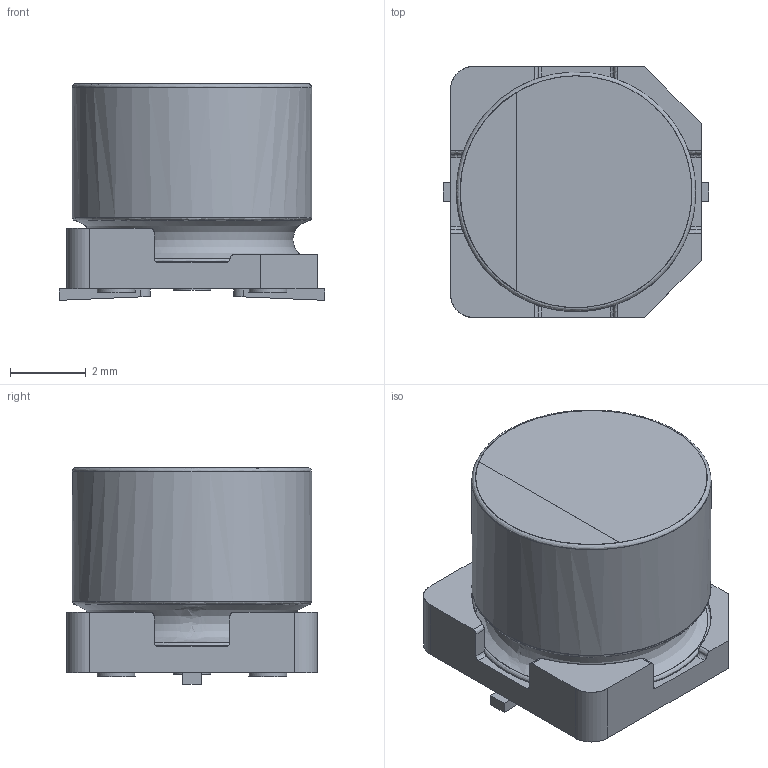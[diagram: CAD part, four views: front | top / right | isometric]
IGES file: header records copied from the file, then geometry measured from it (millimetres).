
Start section: JAMA-IS VERSION  1.0
Bounding box: 7 x 6.6 x 5.7 mm (x, y, z)
Surface area: 297.3 mm2 (no closed solid volume)
Topology: 0 solids, 0 shells, 74 faces, 994 edges, 976 vertices
Faces by surface type: bspline 74
